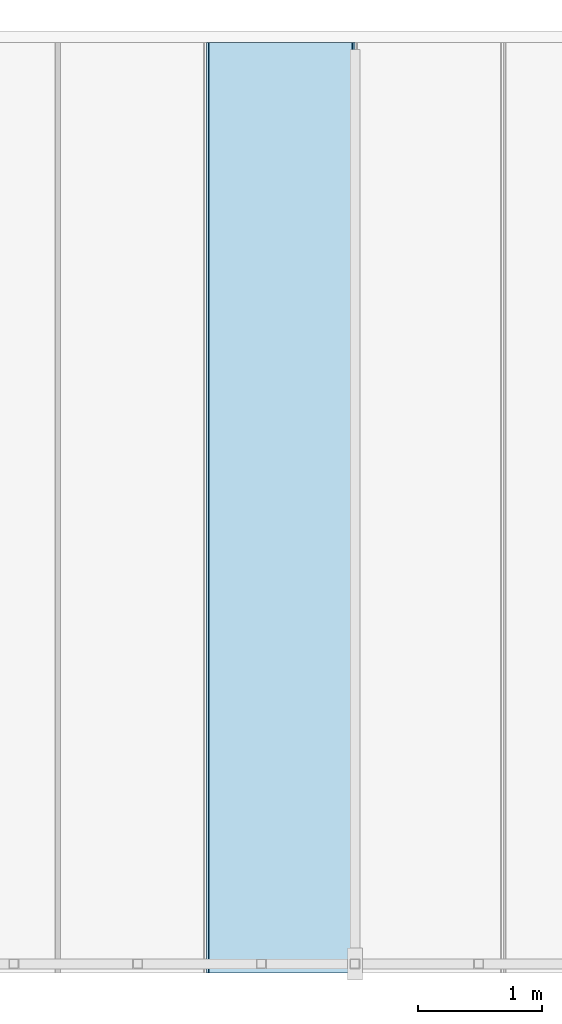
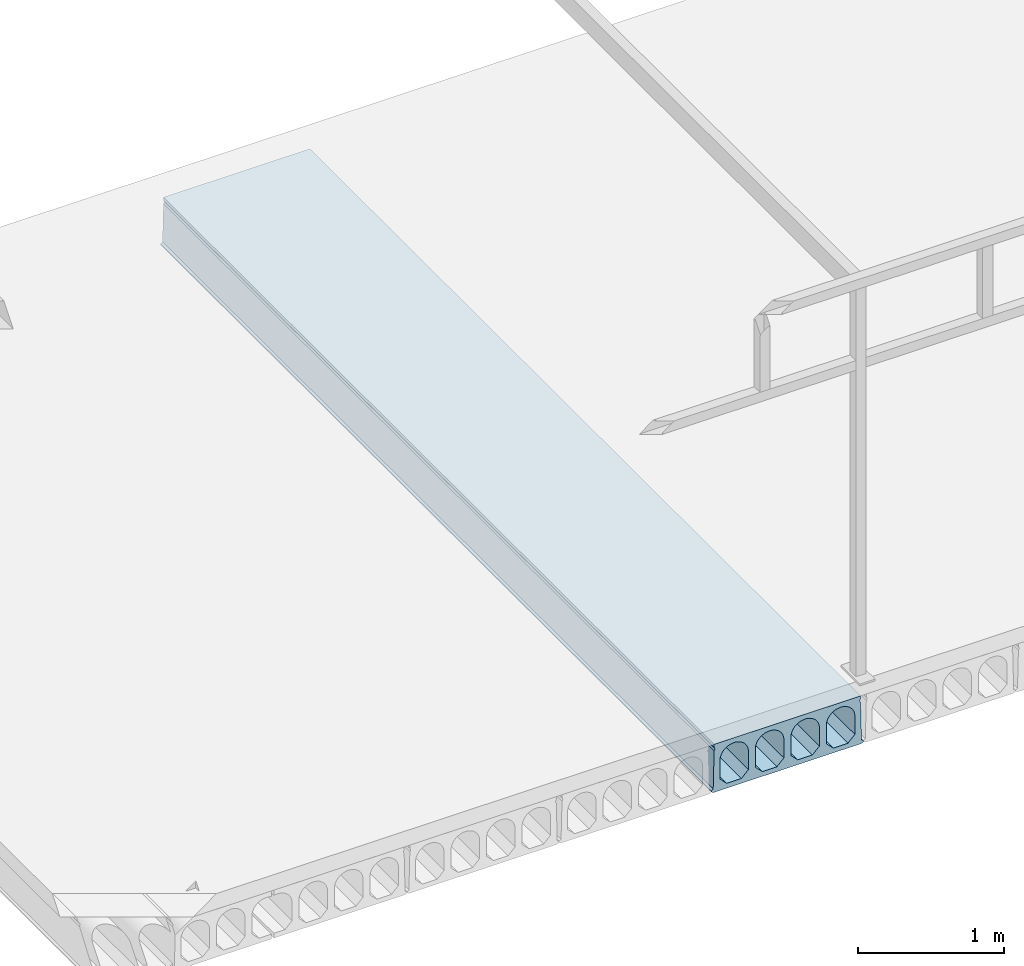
# One storey, part 10 of 20: 1 slab.
"""IFC2X3 building model written with IfcOpenShell, lengths in millimetres."""

from ifc_helpers import new_model, entity, si_unit, converted_unit, derived_unit, direction, frame, origin_with_axes, place, context, subcontext, project, spatial, faceted_brep, type_object, element, save


model = new_model("IFC2X3")

# Units and contexts
model_context = context("Model", 3, precision=0.01, world=frame((0.0, 4.29681676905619e-09, 0.0)), true_north=direction((4.01073788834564e-13, 1.0)))
plan_context = context("Plan", 3, precision=0.01, world=frame((0.0, 4.29681676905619e-09, 0.0)), true_north=direction((4.01073788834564e-13, 1.0)))
body_context = subcontext(model_context, "Body", "Model", "MODEL_VIEW")
ifc_project = project(units=[converted_unit("PLANEANGLEUNIT", "DEGREE", entity("IfcPositiveLengthMeasure", 0.0174532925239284), si_unit("PLANEANGLEUNIT", "RADIAN"), dimensions=[0, 0, 0, 0, 0, 0, 0]), si_unit("AREAUNIT", "SQUARE_METRE"), si_unit("LENGTHUNIT", "METRE", prefix="MILLI"), si_unit("MASSUNIT", "GRAM", prefix="KILO"), si_unit("POWERUNIT", "WATT"), si_unit("PRESSUREUNIT", "PASCAL", prefix="KILO"), si_unit("FORCEUNIT", "NEWTON", prefix="KILO"), si_unit("ELECTRICVOLTAGEUNIT", "VOLT"), si_unit("ELECTRICCURRENTUNIT", "AMPERE"), si_unit("THERMODYNAMICTEMPERATUREUNIT", "DEGREE_CELSIUS"), si_unit("TIMEUNIT", "SECOND"), si_unit("VOLUMEUNIT", "CUBIC_METRE"), derived_unit("LINEARVELOCITYUNIT", [(si_unit("LENGTHUNIT", "METRE"), 1), (si_unit("TIMEUNIT", "SECOND"), -1)]), derived_unit("VOLUMETRICFLOWRATEUNIT", [(si_unit("VOLUMEUNIT", "CUBIC_METRE"), 1), (si_unit("TIMEUNIT", "SECOND"), -1)]), derived_unit("THERMALTRANSMITTANCEUNIT", [(si_unit("POWERUNIT", "WATT"), 1), (si_unit("THERMODYNAMICTEMPERATUREUNIT", "KELVIN"), -1), (si_unit("AREAUNIT", "SQUARE_METRE"), -1)]), derived_unit("SOUNDPRESSUREUNIT", [(si_unit("PRESSUREUNIT", "PASCAL"), 1)])], contexts=[model_context, plan_context])

# Site, building, storey
site_placement = place(None, frame((0.0, -4.29681676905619e-09, 0.0), z_axis=(0.0, 0.0, 1.0), x_axis=(1.0, 0.0, 0.0)))
site = spatial("IfcSite", under=ifc_project, at=site_placement, Name="Gardermoen", CompositionType="ELEMENT")
building_placement = place(site_placement, frame((0.0, 4.29681676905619e-09, 0.0), z_axis=(0.0, 0.0, 1.0), x_axis=(1.0, 0.0, 0.0)))
building = spatial("IfcBuilding", under=site, at=building_placement, Name="TS", CompositionType="ELEMENT")
storey_placement = place(building_placement, origin_with_axes())
storey = spatial("IfcBuildingStorey", under=building, at=storey_placement, Name="D", CompositionType="ELEMENT", Elevation=0.0)

# Slab
slab_type = type_object("IfcSlabType", Name="HD400", PredefinedType="NOTDEFINED")
slab_placement = place(storey_placement, frame((600399.999766, 396739.995625, 203600.0), z_axis=(0.0, 0.0, 1.0), x_axis=(0.0, 1.0, 0.0)))
element("IfcSlab", 1, at=slab_placement, inside=storey, type_object=slab_type, Name="HULLDEKKE", ObjectType="HD400", PredefinedType="FLOOR", context=body_context, shape_type="Brep", body=[
    faceted_brep([(996.504375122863, 600.0, -180.0), (996.504375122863, 600.0, -190.0), (8520.0, 600.0, -190.0), (8520.0, 600.0, -180.0), (996.504375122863, 585.0, -170.0), (8520.0, 585.0, -170.0), (996.504375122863, 577.5, 145.0), (8520.0, 577.5, 145.0), (996.504375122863, 570.0, 160.0), (8520.0, 570.0, 160.0), (996.504375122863, 577.5, 175.0), (8520.0, 577.5, 175.0), (996.504375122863, 577.5, 200.0), (8520.0, 577.5, 200.0), (996.504375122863, -577.5, 200.0), (8520.0, -577.5, 200.0), (996.504375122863, -577.5, 175.0), (8520.0, -577.5, 175.0), (996.504375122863, -570.0, 160.0), (8520.0, -570.0, 160.0), (996.504375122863, -577.5, 145.0), (8520.0, -577.5, 145.0), (996.504375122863, -585.0, -170.0), (8520.0, -585.0, -170.0), (996.504375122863, -600.0, -180.0), (8520.0, -600.0, -180.0), (996.504375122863, -600.0, -190.0), (8520.0, -600.0, -190.0), (996.504375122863, -583.380004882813, -200.0), (8520.0, -583.380004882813, -200.0), (996.504375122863, 583.380004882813, -200.0), (8520.0, 583.380004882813, -200.0), (996.504375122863, -477.5, -160.0), (996.504375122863, -362.5, -160.0), (8520.0, -362.5, -160.0), (8520.0, -477.5, -160.0), (996.504375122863, -532.5, -105.0), (8520.0, -532.5, -105.0), (996.504375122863, -532.5, 47.5), (8520.0, -532.5, 47.5), (996.504375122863, -532.115755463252, 56.7901763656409), (8520.0, -532.115755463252, 56.7901763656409), (996.504375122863, -530.965646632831, 66.0168914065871), (8520.0, -530.965646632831, 66.0168914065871), (996.504375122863, -529.057529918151, 75.1171173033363), (8520.0, -529.057529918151, 75.1171173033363), (996.504375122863, -526.404439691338, 84.028690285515), (8520.0, -526.404439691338, 84.028690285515), (996.504375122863, -523.024499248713, 92.6907352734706), (8520.0, -523.024499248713, 92.6907352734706), (996.504375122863, -518.940797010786, 101.044081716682), (8520.0, -518.940797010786, 101.044081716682), (996.504375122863, -514.181228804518, 109.031667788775), (8520.0, -514.181228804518, 109.031667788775), (996.504375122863, -508.778307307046, 116.598930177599), (8520.0, -508.778307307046, 116.598930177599), (996.504375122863, -502.768939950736, 123.694176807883), (8520.0, -502.768939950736, 123.694176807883), (996.504375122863, -496.194176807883, 130.268939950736), (8520.0, -496.194176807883, 130.268939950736), (996.504375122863, -489.098930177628, 136.278307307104), (8520.0, -489.098930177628, 136.278307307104), (996.504375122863, -481.531667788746, 141.681228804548), (8520.0, -481.531667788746, 141.681228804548), (996.504375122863, -473.544081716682, 146.440797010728), (8520.0, -473.544081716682, 146.440797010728), (996.504375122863, -465.190735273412, 150.524499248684), (8520.0, -465.190735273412, 150.524499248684), (996.504375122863, -456.528690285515, 153.904439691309), (8520.0, -456.528690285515, 153.904439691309), (996.504375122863, -447.617117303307, 156.55752991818), (8520.0, -447.617117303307, 156.55752991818), (996.504375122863, -438.516891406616, 158.465646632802), (8520.0, -438.516891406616, 158.465646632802), (996.504375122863, -429.290176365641, 159.615755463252), (8520.0, -429.290176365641, 159.615755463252), (996.504375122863, -420.0, 160.0), (8520.0, -420.0, 160.0), (996.504375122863, -410.709823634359, 159.615755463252), (8520.0, -410.709823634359, 159.615755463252), (996.504375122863, -401.483108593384, 158.465646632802), (8520.0, -401.483108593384, 158.465646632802), (996.504375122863, -392.382882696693, 156.55752991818), (8520.0, -392.382882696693, 156.55752991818), (996.504375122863, -383.471309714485, 153.904439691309), (8520.0, -383.471309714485, 153.904439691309), (996.504375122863, -374.809264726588, 150.524499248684), (8520.0, -374.809264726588, 150.524499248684), (996.504375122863, -366.455918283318, 146.440797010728), (8520.0, -366.455918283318, 146.440797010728), (996.504375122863, -358.468332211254, 141.681228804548), (8520.0, -358.468332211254, 141.681228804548), (996.504375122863, -350.901069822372, 136.278307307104), (8520.0, -350.901069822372, 136.278307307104), (996.504375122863, -343.805823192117, 130.268939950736), (8520.0, -343.805823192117, 130.268939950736), (996.504375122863, -337.231060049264, 123.694176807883), (8520.0, -337.231060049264, 123.694176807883), (996.504375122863, -331.221692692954, 116.598930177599), (8520.0, -331.221692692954, 116.598930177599), (996.504375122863, -325.818771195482, 109.031667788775), (8520.0, -325.818771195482, 109.031667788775), (996.504375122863, -321.059202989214, 101.044081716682), (8520.0, -321.059202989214, 101.044081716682), (996.504375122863, -316.975500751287, 92.6907352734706), (8520.0, -316.975500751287, 92.6907352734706), (996.504375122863, -313.595560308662, 84.028690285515), (8520.0, -313.595560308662, 84.028690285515), (996.504375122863, -310.942470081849, 75.1171173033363), (8520.0, -310.942470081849, 75.1171173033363), (996.504375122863, -309.034353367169, 66.0168914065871), (8520.0, -309.034353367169, 66.0168914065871), (996.504375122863, -307.884244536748, 56.7901763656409), (8520.0, -307.884244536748, 56.7901763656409), (996.504375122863, -307.5, 47.5), (8520.0, -307.5, 47.5), (996.504375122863, -307.5, -105.0), (8520.0, -307.5, -105.0), (996.504375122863, -197.5, -160.0), (996.504375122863, -82.5, -160.0), (8520.0, -82.5, -160.0), (8520.0, -197.5, -160.0), (996.504375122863, -252.5, -105.0), (8520.0, -252.5, -105.0), (996.504375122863, -252.5, 47.5), (8520.0, -252.5, 47.5), (996.504375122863, -252.115755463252, 56.7901763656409), (8520.0, -252.115755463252, 56.7901763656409), (996.504375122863, -250.965646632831, 66.0168914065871), (8520.0, -250.965646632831, 66.0168914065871), (996.504375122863, -249.057529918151, 75.1171173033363), (8520.0, -249.057529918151, 75.1171173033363), (996.504375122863, -246.404439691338, 84.028690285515), (8520.0, -246.404439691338, 84.028690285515), (996.504375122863, -243.024499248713, 92.6907352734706), (8520.0, -243.024499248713, 92.6907352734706), (996.504375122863, -238.940797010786, 101.044081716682), (8520.0, -238.940797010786, 101.044081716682), (996.504375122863, -234.181228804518, 109.031667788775), (8520.0, -234.181228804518, 109.031667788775), (996.504375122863, -228.778307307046, 116.598930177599), (8520.0, -228.778307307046, 116.598930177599), (996.504375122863, -222.768939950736, 123.694176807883), (8520.0, -222.768939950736, 123.694176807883), (996.504375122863, -216.194176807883, 130.268939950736), (8520.0, -216.194176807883, 130.268939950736), (996.504375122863, -209.098930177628, 136.278307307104), (8520.0, -209.098930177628, 136.278307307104), (996.504375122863, -201.531667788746, 141.681228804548), (8520.0, -201.531667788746, 141.681228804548), (996.504375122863, -193.544081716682, 146.440797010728), (8520.0, -193.544081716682, 146.440797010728), (996.504375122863, -185.190735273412, 150.524499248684), (8520.0, -185.190735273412, 150.524499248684), (996.504375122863, -176.528690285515, 153.904439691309), (8520.0, -176.528690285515, 153.904439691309), (996.504375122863, -167.617117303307, 156.55752991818), (8520.0, -167.617117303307, 156.55752991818), (996.504375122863, -158.516891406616, 158.465646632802), (8520.0, -158.516891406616, 158.465646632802), (996.504375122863, -149.290176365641, 159.615755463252), (8520.0, -149.290176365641, 159.615755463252), (996.504375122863, -140.0, 160.0), (8520.0, -140.0, 160.0), (996.504375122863, -130.709823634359, 159.615755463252), (8520.0, -130.709823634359, 159.615755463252), (996.504375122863, -121.483108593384, 158.465646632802), (8520.0, -121.483108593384, 158.465646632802), (996.504375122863, -112.382882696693, 156.55752991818), (8520.0, -112.382882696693, 156.55752991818), (996.504375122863, -103.471309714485, 153.904439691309), (8520.0, -103.471309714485, 153.904439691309), (996.504375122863, -94.8092647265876, 150.524499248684), (8520.0, -94.8092647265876, 150.524499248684), (996.504375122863, -86.4559182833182, 146.440797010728), (8520.0, -86.4559182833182, 146.440797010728), (996.504375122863, -78.4683322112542, 141.681228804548), (8520.0, -78.4683322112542, 141.681228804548), (996.504375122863, -70.9010698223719, 136.278307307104), (8520.0, -70.9010698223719, 136.278307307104), (996.504375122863, -63.8058231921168, 130.268939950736), (8520.0, -63.8058231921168, 130.268939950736), (996.504375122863, -57.2310600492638, 123.694176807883), (8520.0, -57.2310600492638, 123.694176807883), (996.504375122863, -51.2216926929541, 116.598930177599), (8520.0, -51.2216926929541, 116.598930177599), (996.504375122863, -45.8187711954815, 109.031667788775), (8520.0, -45.8187711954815, 109.031667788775), (996.504375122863, -41.0592029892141, 101.044081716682), (8520.0, -41.0592029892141, 101.044081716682), (996.504375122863, -36.9755007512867, 92.6907352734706), (8520.0, -36.9755007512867, 92.6907352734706), (996.504375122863, -33.5955603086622, 84.028690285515), (8520.0, -33.5955603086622, 84.028690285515), (996.504375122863, -30.942470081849, 75.1171173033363), (8520.0, -30.942470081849, 75.1171173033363), (996.504375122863, -29.0343533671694, 66.0168914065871), (8520.0, -29.0343533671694, 66.0168914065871), (996.504375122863, -27.8842445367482, 56.7901763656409), (8520.0, -27.8842445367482, 56.7901763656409), (996.504375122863, -27.5, 47.5), (8520.0, -27.5, 47.5), (996.504375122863, -27.5, -105.0), (8520.0, -27.5, -105.0), (996.504375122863, 82.5, -160.0), (996.504375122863, 197.5, -160.0), (8520.0, 197.5, -160.0), (8520.0, 82.5, -160.0), (996.504375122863, 27.5, -105.0), (8520.0, 27.5, -105.0), (996.504375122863, 27.5, 47.5), (8520.0, 27.5, 47.5), (996.504375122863, 27.8842445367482, 56.7901763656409), (8520.0, 27.8842445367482, 56.7901763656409), (996.504375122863, 29.0343533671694, 66.0168914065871), (8520.0, 29.0343533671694, 66.0168914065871), (996.504375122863, 30.942470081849, 75.1171173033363), (8520.0, 30.942470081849, 75.1171173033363), (996.504375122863, 33.5955603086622, 84.028690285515), (8520.0, 33.5955603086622, 84.028690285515), (996.504375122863, 36.9755007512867, 92.6907352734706), (8520.0, 36.9755007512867, 92.6907352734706), (996.504375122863, 41.0592029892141, 101.044081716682), (8520.0, 41.0592029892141, 101.044081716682), (996.504375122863, 45.8187711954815, 109.031667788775), (8520.0, 45.8187711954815, 109.031667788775), (996.504375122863, 51.2216926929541, 116.598930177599), (8520.0, 51.2216926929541, 116.598930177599), (996.504375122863, 57.2310600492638, 123.694176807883), (8520.0, 57.2310600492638, 123.694176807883), (996.504375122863, 63.8058231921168, 130.268939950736), (8520.0, 63.8058231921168, 130.268939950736), (996.504375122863, 70.9010698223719, 136.278307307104), (8520.0, 70.9010698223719, 136.278307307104), (996.504375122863, 78.4683322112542, 141.681228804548), (8520.0, 78.4683322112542, 141.681228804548), (996.504375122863, 86.4559182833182, 146.440797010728), (8520.0, 86.4559182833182, 146.440797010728), (996.504375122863, 94.8092647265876, 150.524499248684), (8520.0, 94.8092647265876, 150.524499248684), (996.504375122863, 103.471309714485, 153.904439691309), (8520.0, 103.471309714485, 153.904439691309), (996.504375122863, 112.382882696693, 156.55752991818), (8520.0, 112.382882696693, 156.55752991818), (996.504375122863, 121.483108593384, 158.465646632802), (8520.0, 121.483108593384, 158.465646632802), (996.504375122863, 130.709823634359, 159.615755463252), (8520.0, 130.709823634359, 159.615755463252), (996.504375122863, 140.0, 160.0), (8520.0, 140.0, 160.0), (996.504375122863, 149.290176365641, 159.615755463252), (8520.0, 149.290176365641, 159.615755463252), (996.504375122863, 158.516891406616, 158.465646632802), (8520.0, 158.516891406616, 158.465646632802), (996.504375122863, 167.617117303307, 156.55752991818), (8520.0, 167.617117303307, 156.55752991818), (996.504375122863, 176.528690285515, 153.904439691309), (8520.0, 176.528690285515, 153.904439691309), (996.504375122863, 185.190735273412, 150.524499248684), (8520.0, 185.190735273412, 150.524499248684), (996.504375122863, 193.544081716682, 146.440797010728), (8520.0, 193.544081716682, 146.440797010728), (996.504375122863, 201.531667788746, 141.681228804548), (8520.0, 201.531667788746, 141.681228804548), (996.504375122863, 209.098930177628, 136.278307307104), (8520.0, 209.098930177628, 136.278307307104), (996.504375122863, 216.194176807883, 130.268939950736), (8520.0, 216.194176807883, 130.268939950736), (996.504375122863, 222.768939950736, 123.694176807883), (8520.0, 222.768939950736, 123.694176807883), (996.504375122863, 228.778307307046, 116.598930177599), (8520.0, 228.778307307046, 116.598930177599), (996.504375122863, 234.181228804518, 109.031667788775), (8520.0, 234.181228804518, 109.031667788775), (996.504375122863, 238.940797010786, 101.044081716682), (8520.0, 238.940797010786, 101.044081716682), (996.504375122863, 243.024499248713, 92.6907352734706), (8520.0, 243.024499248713, 92.6907352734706), (996.504375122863, 246.404439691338, 84.028690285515), (8520.0, 246.404439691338, 84.028690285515), (996.504375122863, 249.057529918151, 75.1171173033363), (8520.0, 249.057529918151, 75.1171173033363), (996.504375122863, 250.965646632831, 66.0168914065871), (8520.0, 250.965646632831, 66.0168914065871), (996.504375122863, 252.115755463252, 56.7901763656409), (8520.0, 252.115755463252, 56.7901763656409), (996.504375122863, 252.5, 47.5), (8520.0, 252.5, 47.5), (996.504375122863, 252.5, -105.0), (8520.0, 252.5, -105.0), (996.504375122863, 362.5, -160.0), (996.504375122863, 477.5, -160.0), (8520.0, 477.5, -160.0), (8520.0, 362.5, -160.0), (996.504375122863, 307.5, -105.0), (8520.0, 307.5, -105.0), (996.504375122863, 307.5, 47.5), (8520.0, 307.5, 47.5), (996.504375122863, 307.884244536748, 56.7901763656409), (8520.0, 307.884244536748, 56.7901763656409), (996.504375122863, 309.034353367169, 66.0168914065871), (8520.0, 309.034353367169, 66.0168914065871), (996.504375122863, 310.942470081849, 75.1171173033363), (8520.0, 310.942470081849, 75.1171173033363), (996.504375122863, 313.595560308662, 84.028690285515), (8520.0, 313.595560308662, 84.028690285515), (996.504375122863, 316.975500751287, 92.6907352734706), (8520.0, 316.975500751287, 92.6907352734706), (996.504375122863, 321.059202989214, 101.044081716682), (8520.0, 321.059202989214, 101.044081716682), (996.504375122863, 325.818771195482, 109.031667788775), (8520.0, 325.818771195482, 109.031667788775), (996.504375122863, 331.221692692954, 116.598930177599), (8520.0, 331.221692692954, 116.598930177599), (996.504375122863, 337.231060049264, 123.694176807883), (8520.0, 337.231060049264, 123.694176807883), (996.504375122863, 343.805823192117, 130.268939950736), (8520.0, 343.805823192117, 130.268939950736), (996.504375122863, 350.901069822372, 136.278307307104), (8520.0, 350.901069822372, 136.278307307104), (996.504375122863, 358.468332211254, 141.681228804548), (8520.0, 358.468332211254, 141.681228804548), (996.504375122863, 366.455918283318, 146.440797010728), (8520.0, 366.455918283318, 146.440797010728), (996.504375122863, 374.809264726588, 150.524499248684), (8520.0, 374.809264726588, 150.524499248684), (996.504375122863, 383.471309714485, 153.904439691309), (8520.0, 383.471309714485, 153.904439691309), (996.504375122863, 392.382882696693, 156.55752991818), (8520.0, 392.382882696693, 156.55752991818), (996.504375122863, 401.483108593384, 158.465646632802), (8520.0, 401.483108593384, 158.465646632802), (996.504375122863, 410.709823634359, 159.615755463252), (8520.0, 410.709823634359, 159.615755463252), (996.504375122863, 420.0, 160.0), (8520.0, 420.0, 160.0), (996.504375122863, 429.290176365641, 159.615755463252), (8520.0, 429.290176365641, 159.615755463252), (996.504375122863, 438.516891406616, 158.465646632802), (8520.0, 438.516891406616, 158.465646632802), (996.504375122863, 447.617117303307, 156.55752991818), (8520.0, 447.617117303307, 156.55752991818), (996.504375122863, 456.528690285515, 153.904439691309), (8520.0, 456.528690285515, 153.904439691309), (996.504375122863, 465.190735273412, 150.524499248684), (8520.0, 465.190735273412, 150.524499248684), (996.504375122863, 473.544081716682, 146.440797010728), (8520.0, 473.544081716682, 146.440797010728), (996.504375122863, 481.531667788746, 141.681228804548), (8520.0, 481.531667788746, 141.681228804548), (996.504375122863, 489.098930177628, 136.278307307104), (8520.0, 489.098930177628, 136.278307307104), (996.504375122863, 496.194176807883, 130.268939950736), (8520.0, 496.194176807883, 130.268939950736), (996.504375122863, 502.768939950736, 123.694176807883), (8520.0, 502.768939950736, 123.694176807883), (996.504375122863, 508.778307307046, 116.598930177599), (8520.0, 508.778307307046, 116.598930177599), (996.504375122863, 514.181228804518, 109.031667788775), (8520.0, 514.181228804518, 109.031667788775), (996.504375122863, 518.940797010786, 101.044081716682), (8520.0, 518.940797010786, 101.044081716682), (996.504375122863, 523.024499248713, 92.6907352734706), (8520.0, 523.024499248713, 92.6907352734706), (996.504375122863, 526.404439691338, 84.028690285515), (8520.0, 526.404439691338, 84.028690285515), (996.504375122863, 529.057529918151, 75.1171173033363), (8520.0, 529.057529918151, 75.1171173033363), (996.504375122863, 530.965646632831, 66.0168914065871), (8520.0, 530.965646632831, 66.0168914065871), (996.504375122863, 532.115755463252, 56.7901763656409), (8520.0, 532.115755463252, 56.7901763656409), (996.504375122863, 532.5, 47.5), (8520.0, 532.5, 47.5), (996.504375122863, 532.5, -105.0), (8520.0, 532.5, -105.0)], [[[0, 1, 2, 3]], [[4, 0, 3, 5]], [[6, 4, 5, 7]], [[8, 6, 7, 9]], [[10, 8, 9, 11]], [[12, 10, 11, 13]], [[14, 12, 13, 15]], [[16, 14, 15, 17]], [[18, 16, 17, 19]], [[20, 18, 19, 21]], [[22, 20, 21, 23]], [[24, 22, 23, 25]], [[26, 24, 25, 27]], [[28, 26, 27, 29]], [[30, 28, 29, 31]], [[1, 30, 31, 2]], [[32, 33, 34, 35]], [[36, 32, 35, 37]], [[38, 36, 37, 39]], [[40, 38, 39, 41]], [[42, 40, 41, 43]], [[44, 42, 43, 45]], [[46, 44, 45, 47]], [[48, 46, 47, 49]], [[50, 48, 49, 51]], [[52, 50, 51, 53]], [[54, 52, 53, 55]], [[56, 54, 55, 57]], [[58, 56, 57, 59]], [[60, 58, 59, 61]], [[62, 60, 61, 63]], [[64, 62, 63, 65]], [[66, 64, 65, 67]], [[68, 66, 67, 69]], [[70, 68, 69, 71]], [[72, 70, 71, 73]], [[74, 72, 73, 75]], [[76, 74, 75, 77]], [[78, 76, 77, 79]], [[80, 78, 79, 81]], [[82, 80, 81, 83]], [[84, 82, 83, 85]], [[86, 84, 85, 87]], [[88, 86, 87, 89]], [[90, 88, 89, 91]], [[92, 90, 91, 93]], [[94, 92, 93, 95]], [[96, 94, 95, 97]], [[98, 96, 97, 99]], [[100, 98, 99, 101]], [[102, 100, 101, 103]], [[104, 102, 103, 105]], [[106, 104, 105, 107]], [[108, 106, 107, 109]], [[110, 108, 109, 111]], [[112, 110, 111, 113]], [[114, 112, 113, 115]], [[116, 114, 115, 117]], [[33, 116, 117, 34]], [[118, 119, 120, 121]], [[122, 118, 121, 123]], [[124, 122, 123, 125]], [[126, 124, 125, 127]], [[128, 126, 127, 129]], [[130, 128, 129, 131]], [[132, 130, 131, 133]], [[134, 132, 133, 135]], [[136, 134, 135, 137]], [[138, 136, 137, 139]], [[140, 138, 139, 141]], [[142, 140, 141, 143]], [[144, 142, 143, 145]], [[146, 144, 145, 147]], [[148, 146, 147, 149]], [[150, 148, 149, 151]], [[152, 150, 151, 153]], [[154, 152, 153, 155]], [[156, 154, 155, 157]], [[158, 156, 157, 159]], [[160, 158, 159, 161]], [[162, 160, 161, 163]], [[164, 162, 163, 165]], [[166, 164, 165, 167]], [[168, 166, 167, 169]], [[170, 168, 169, 171]], [[172, 170, 171, 173]], [[174, 172, 173, 175]], [[176, 174, 175, 177]], [[178, 176, 177, 179]], [[180, 178, 179, 181]], [[182, 180, 181, 183]], [[184, 182, 183, 185]], [[186, 184, 185, 187]], [[188, 186, 187, 189]], [[190, 188, 189, 191]], [[192, 190, 191, 193]], [[194, 192, 193, 195]], [[196, 194, 195, 197]], [[198, 196, 197, 199]], [[200, 198, 199, 201]], [[202, 200, 201, 203]], [[119, 202, 203, 120]], [[204, 205, 206, 207]], [[208, 204, 207, 209]], [[210, 208, 209, 211]], [[212, 210, 211, 213]], [[214, 212, 213, 215]], [[216, 214, 215, 217]], [[218, 216, 217, 219]], [[220, 218, 219, 221]], [[222, 220, 221, 223]], [[224, 222, 223, 225]], [[226, 224, 225, 227]], [[228, 226, 227, 229]], [[230, 228, 229, 231]], [[232, 230, 231, 233]], [[234, 232, 233, 235]], [[236, 234, 235, 237]], [[238, 236, 237, 239]], [[240, 238, 239, 241]], [[242, 240, 241, 243]], [[244, 242, 243, 245]], [[246, 244, 245, 247]], [[248, 246, 247, 249]], [[250, 248, 249, 251]], [[252, 250, 251, 253]], [[254, 252, 253, 255]], [[256, 254, 255, 257]], [[258, 256, 257, 259]], [[260, 258, 259, 261]], [[262, 260, 261, 263]], [[264, 262, 263, 265]], [[266, 264, 265, 267]], [[268, 266, 267, 269]], [[270, 268, 269, 271]], [[272, 270, 271, 273]], [[274, 272, 273, 275]], [[276, 274, 275, 277]], [[278, 276, 277, 279]], [[280, 278, 279, 281]], [[282, 280, 281, 283]], [[284, 282, 283, 285]], [[286, 284, 285, 287]], [[288, 286, 287, 289]], [[205, 288, 289, 206]], [[290, 291, 292, 293]], [[294, 290, 293, 295]], [[296, 294, 295, 297]], [[298, 296, 297, 299]], [[300, 298, 299, 301]], [[302, 300, 301, 303]], [[304, 302, 303, 305]], [[306, 304, 305, 307]], [[308, 306, 307, 309]], [[310, 308, 309, 311]], [[312, 310, 311, 313]], [[314, 312, 313, 315]], [[316, 314, 315, 317]], [[318, 316, 317, 319]], [[320, 318, 319, 321]], [[322, 320, 321, 323]], [[324, 322, 323, 325]], [[326, 324, 325, 327]], [[328, 326, 327, 329]], [[330, 328, 329, 331]], [[332, 330, 331, 333]], [[334, 332, 333, 335]], [[336, 334, 335, 337]], [[338, 336, 337, 339]], [[340, 338, 339, 341]], [[342, 340, 341, 343]], [[344, 342, 343, 345]], [[346, 344, 345, 347]], [[348, 346, 347, 349]], [[350, 348, 349, 351]], [[352, 350, 351, 353]], [[354, 352, 353, 355]], [[356, 354, 355, 357]], [[358, 356, 357, 359]], [[360, 358, 359, 361]], [[362, 360, 361, 363]], [[364, 362, 363, 365]], [[366, 364, 365, 367]], [[368, 366, 367, 369]], [[370, 368, 369, 371]], [[372, 370, 371, 373]], [[374, 372, 373, 375]], [[291, 374, 375, 292]], [[3, 2, 31, 29, 27, 25, 23, 21, 19, 17, 15, 13, 11, 9, 7, 5], [293, 292, 375, 373, 371, 369, 367, 365, 363, 361, 359, 357, 355, 353, 351, 349, 347, 345, 343, 341, 339, 337, 335, 333, 331, 329, 327, 325, 323, 321, 319, 317, 315, 313, 311, 309, 307, 305, 303, 301, 299, 297, 295], [207, 206, 289, 287, 285, 283, 281, 279, 277, 275, 273, 271, 269, 267, 265, 263, 261, 259, 257, 255, 253, 251, 249, 247, 245, 243, 241, 239, 237, 235, 233, 231, 229, 227, 225, 223, 221, 219, 217, 215, 213, 211, 209], [121, 120, 203, 201, 199, 197, 195, 193, 191, 189, 187, 185, 183, 181, 179, 177, 175, 173, 171, 169, 167, 165, 163, 161, 159, 157, 155, 153, 151, 149, 147, 145, 143, 141, 139, 137, 135, 133, 131, 129, 127, 125, 123], [35, 34, 117, 115, 113, 111, 109, 107, 105, 103, 101, 99, 97, 95, 93, 91, 89, 87, 85, 83, 81, 79, 77, 75, 73, 71, 69, 67, 65, 63, 61, 59, 57, 55, 53, 51, 49, 47, 45, 43, 41, 39, 37]], [[4, 6, 8, 10, 12, 14, 16, 18, 20, 22, 24, 26, 28, 30, 1, 0], [36, 38, 40, 42, 44, 46, 48, 50, 52, 54, 56, 58, 60, 62, 64, 66, 68, 70, 72, 74, 76, 78, 80, 82, 84, 86, 88, 90, 92, 94, 96, 98, 100, 102, 104, 106, 108, 110, 112, 114, 116, 33, 32], [122, 124, 126, 128, 130, 132, 134, 136, 138, 140, 142, 144, 146, 148, 150, 152, 154, 156, 158, 160, 162, 164, 166, 168, 170, 172, 174, 176, 178, 180, 182, 184, 186, 188, 190, 192, 194, 196, 198, 200, 202, 119, 118], [208, 210, 212, 214, 216, 218, 220, 222, 224, 226, 228, 230, 232, 234, 236, 238, 240, 242, 244, 246, 248, 250, 252, 254, 256, 258, 260, 262, 264, 266, 268, 270, 272, 274, 276, 278, 280, 282, 284, 286, 288, 205, 204], [294, 296, 298, 300, 302, 304, 306, 308, 310, 312, 314, 316, 318, 320, 322, 324, 326, 328, 330, 332, 334, 336, 338, 340, 342, 344, 346, 348, 350, 352, 354, 356, 358, 360, 362, 364, 366, 368, 370, 372, 374, 291, 290]]], orient=[[False], [False], [False], [False], [False], [False], [False], [False], [False], [False], [False], [False], [False], [False], [False], [False], [False], [False], [False], [False], [False], [False], [False], [False], [False], [False], [False], [False], [False], [False], [False], [False], [False], [False], [False], [False], [False], [False], [False], [False], [False], [False], [False], [False], [False], [False], [False], [False], [False], [False], [False], [False], [False], [False], [False], [False], [False], [False], [False], [False], [False], [False], [False], [False], [False], [False], [False], [False], [False], [False], [False], [False], [False], [False], [False], [False], [False], [False], [False], [False], [False], [False], [False], [False], [False], [False], [False], [False], [False], [False], [False], [False], [False], [False], [False], [False], [False], [False], [False], [False], [False], [False], [False], [False], [False], [False], [False], [False], [False], [False], [False], [False], [False], [False], [False], [False], [False], [False], [False], [False], [False], [False], [False], [False], [False], [False], [False], [False], [False], [False], [False], [False], [False], [False], [False], [False], [False], [False], [False], [False], [False], [False], [False], [False], [False], [False], [False], [False], [False], [False], [False], [False], [False], [False], [False], [False], [False], [False], [False], [False], [False], [False], [False], [False], [False], [False], [False], [False], [False], [False], [False], [False], [False], [False], [False], [False], [False], [False], [False], [False], [False], [False], [False], [False], [False], [False], [False], [False], [False, False, False, False, False], [False, False, False, False, False]]),
])

save(model, "model.ifc")
